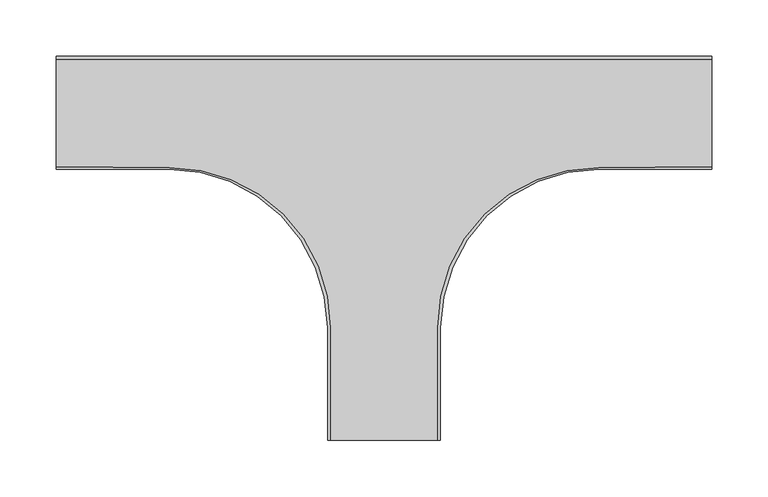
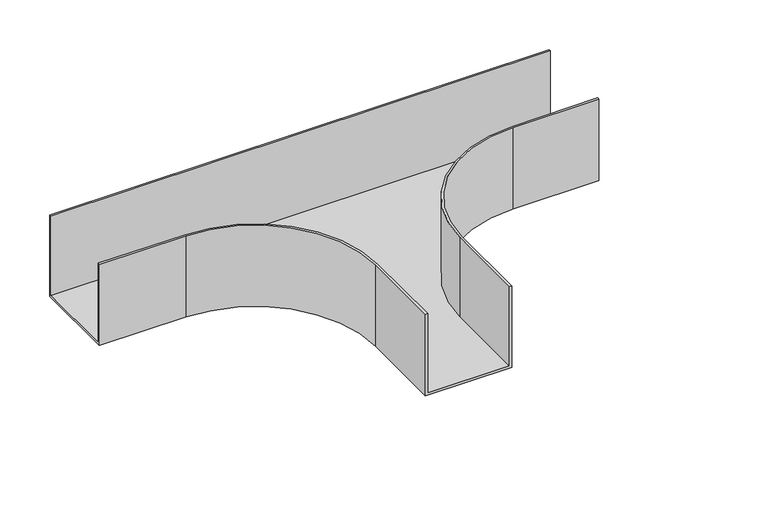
"""IFC4 building model written with IfcOpenShell, lengths in millimetres: cable carrier fitting geometry, BAKS_Tee_TKZ : TKZPH100."""

from ifc_helpers import new_model, si_unit, frame, origin, place, context, project, spatial, polyline, circle_curve, source, transform, mapped, element, save
from ifc_brep_helpers import plane_surface, cylinder_surface, revolved_surface, advanced_brep


def cable_carrier_fitting_e87cdf85(model_context):
    return source(origin(), model_context, "Body", "AdvancedBrep", [
        advanced_brep(
        [(-50.0, -190.0, 50.0), (-50.0, -290.0, 50.0), (-47.46, -290.0, 50.0), (-47.46, -190.0, 50.0), (-190.0, -48.503822, 50.0), (-290.0, -47.46, 50.0), (-290.0, -50.0, 50.0), (-190.0, -50.0, 50.0), (50.0, -190.0, 50.0), (190.0, -50.0, 50.0), (290.0, -50.0, 50.0), (290.0, -47.46, 50.0), (190.0, -48.503822, 50.0), (47.46, -190.0, 50.0), (47.46, -290.0, 50.0), (50.0, -290.0, 50.0), (290.0, 50.0, 50.0), (-290.0, 50.0, 50.0), (-290.0, 47.46, 50.0), (290.0, 47.46, 50.0), (-50.0, -190.0, -50.0), (-190.0, -50.0, -50.0), (-290.0, -50.0, -50.0), (-290.0, 50.0, -50.0), (290.0, 50.0, -50.0), (290.0, -50.0, -50.0), (190.0, -50.0, -50.0), (50.0, -190.0, -50.0), (50.0, -290.0, -50.0), (-50.0, -290.0, -50.0), (-50.0, -190.0, -47.46), (47.46, -290.0, -47.46), (-47.46, -290.0, -47.46), (-47.46, -190.0, -47.46), (-190.0, -48.503822, -47.46), (-290.0, -47.46, -47.46), (-290.0, 47.46, -47.46), (-190.0, -50.0, -47.46), (50.0, -190.0, -47.46), (190.0, -50.0, -47.46), (290.0, 47.46, -47.46), (290.0, -47.46, -47.46), (190.0, -48.503822, -47.46), (47.46, -190.0, -47.46)],
        [
            (0, 1),
            (1, 2),
            (2, 3),
            (3, 4, circle_curve(frame((-188.96, -190.0, 50.0), z_axis=(0.0, 0.0, 1.0), x_axis=(1.0, 0.0, 0.0)), 141.5)),
            (4, 5),
            (5, 6),
            (6, 7),
            (7, 0, circle_curve(frame((-190.0, -190.0, 50.0), z_axis=(0.0, 0.0, -1.0), x_axis=(1.0, 0.0, 0.0)), 140.0)),
            (8, 9, circle_curve(frame((190.0, -190.0, 50.0), z_axis=(0.0, 0.0, -1.0), x_axis=(1.0, 0.0, 0.0)), 140.0)),
            (9, 10),
            (10, 11),
            (11, 12),
            (12, 13, circle_curve(frame((188.96, -190.0, 50.0), z_axis=(0.0, 0.0, 1.0), x_axis=(1.0, 0.0, 0.0)), 141.5)),
            (13, 14),
            (14, 15),
            (15, 8),
            (16, 17),
            (17, 18),
            (18, 19),
            (19, 16),
            (20, 21, circle_curve(frame((-190.0, -190.0, -50.0), z_axis=(0.0, 0.0, 1.0), x_axis=(1.0, 0.0, 0.0)), 140.0)),
            (21, 22),
            (22, 23),
            (23, 24),
            (24, 25),
            (25, 26),
            (26, 27, circle_curve(frame((190.0, -190.0, -50.0), z_axis=(0.0, 0.0, 1.0), x_axis=(1.0, 0.0, 0.0)), 140.0)),
            (27, 28),
            (28, 29),
            (29, 20),
            (29, 1),
            (0, 30),
            (30, 20),
            (28, 15),
            (14, 31),
            (31, 32),
            (32, 2),
            (32, 33),
            (33, 3),
            (33, 34, circle_curve(frame((-188.96, -190.0, -47.46), z_axis=(0.0, 0.0, 1.0), x_axis=(1.0, 0.0, 0.0)), 141.5)),
            (34, 4),
            (34, 35),
            (35, 5),
            (35, 36),
            (36, 18),
            (17, 23),
            (22, 6),
            (21, 37),
            (37, 7),
            (8, 38),
            (38, 27),
            (26, 39),
            (39, 9),
            (25, 10),
            (24, 16),
            (19, 40),
            (40, 41),
            (41, 11),
            (41, 42),
            (42, 12),
            (42, 43, circle_curve(frame((188.96, -190.0, -47.46), z_axis=(0.0, 0.0, 1.0), x_axis=(1.0, 0.0, 0.0)), 141.5)),
            (43, 13),
            (43, 31),
            (36, 40),
        ],
        [
            plane_surface(frame((-50.0, -190.0, 50.0), z_axis=(0.0, 0.0, 1.0), x_axis=(0.0, -1.0, 0.0))),
            plane_surface(frame((-50.0, -190.0, -50.0), z_axis=(0.0, 0.0, -1.0), x_axis=(0.0, 1.0, 0.0))),
            plane_surface(frame((-50.0, -190.0, 50.0), z_axis=(-1.0, 0.0, 0.0), x_axis=(0.0, 0.0, -1.0))),
            plane_surface(frame((-50.0, -290.0, 50.0), z_axis=(0.0, -1.0, 0.0), x_axis=(0.0, 0.0, -1.0))),
            plane_surface(frame((-47.46, -290.0, 50.0), z_axis=(1.0, 0.0, 0.0), x_axis=(0.0, 0.0, -1.0))),
            cylinder_surface(frame((-188.96, -190.0, -50.0), z_axis=(0.0, 0.0, 1.0), x_axis=(1.0, 0.0, 0.0)), 141.5),
            plane_surface(frame((-190.0, -48.503822, 50.0), z_axis=(0.010437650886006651, 0.9999455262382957, 0.0), x_axis=(0.0, 0.0, -1.0))),
            plane_surface(frame((-290.0, -47.46, 50.0), z_axis=(-1.0, 0.0, 0.0), x_axis=(0.0, 0.0, -1.0))),
            plane_surface(frame((-290.0, -50.0, 50.0), z_axis=(0.0, -1.0, 0.0), x_axis=(0.0, 0.0, -1.0))),
            revolved_surface(polyline([(-50.0, -190.0, -50.0), (-50.0, -190.0, 50.0)]), (-190.0, -190.0, -50.0), (0.0, 0.0, -1.0)),
            revolved_surface(polyline([(330.0, -190.0, -50.0), (330.0, -190.0, 50.0)]), (190.0, -190.0, 0.0), (0.0, 0.0, -1.0)),
            plane_surface(frame((190.0, -50.0, 50.0), z_axis=(0.0, -1.0, 0.0), x_axis=(0.0, 0.0, -1.0))),
            plane_surface(frame((290.0, -50.0, 50.0), z_axis=(1.0, 0.0, 0.0), x_axis=(0.0, 0.0, -1.0))),
            plane_surface(frame((290.0, -47.46, 50.0), z_axis=(-0.010437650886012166, 0.9999455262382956, 0.0), x_axis=(0.0, 0.0, -1.0))),
            cylinder_surface(frame((188.96, -190.0, 0.0), z_axis=(0.0, 0.0, 1.0), x_axis=(1.0, 0.0, 0.0)), 141.5),
            plane_surface(frame((47.46, -190.0, 50.0), z_axis=(-1.0, 0.0, 0.0), x_axis=(0.0, 0.0, -1.0))),
            plane_surface(frame((50.0, -290.0, 50.0), z_axis=(1.0, 0.0, 0.0), x_axis=(0.0, 0.0, -1.0))),
            plane_surface(frame((290.0, 50.0, 50.0), z_axis=(0.0, 1.0, 0.0), x_axis=(0.0, 0.0, -1.0))),
            plane_surface(frame((-290.0, 47.46, 50.0), z_axis=(0.0, -1.0, 0.0), x_axis=(0.0, 0.0, -1.0))),
            plane_surface(frame((-50.0, -190.0, -47.46), z_axis=(0.0, 0.0, 1.0), x_axis=(0.0, -1.0, 0.0))),
        ],
        [
            (0, [[1, 2, 3, 4, 5, 6, 7, 8]]),
            (0, [[9, 10, 11, 12, 13, 14, 15, 16]]),
            (0, [[17, 18, 19, 20]]),
            (1, [[21, 22, 23, 24, 25, 26, 27, 28, 29, 30]]),
            (2, [[31, -1, 32, 33, -30]]),
            (3, [[-2, -31, -29, 34, -15, 35, 36, 37]]),
            (4, [[-3, -37, 38, 39]]),
            (5, [[-4, -39, 40, 41]]),
            (6, [[-5, -41, 42, 43]]),
            (7, [[-6, -43, 44, 45, -18, 46, -23, 47]]),
            (8, [[-7, -47, -22, 48, 49]]),
            (9, [[-8, -49, -48, -21, -33, -32]]),
            (10, [[-9, 50, 51, -27, 52, 53]]),
            (11, [[54, -10, -53, -52, -26]]),
            (12, [[-11, -54, -25, 55, -20, 56, 57, 58]]),
            (13, [[-12, -58, 59, 60]]),
            (14, [[-13, -60, 61, 62]]),
            (15, [[-14, -62, 63, -35]]),
            (16, [[-16, -34, -28, -51, -50]]),
            (17, [[-46, -17, -55, -24]]),
            (18, [[-19, -45, 64, -56]]),
            (19, [[-36, -63, -61, -59, -57, -64, -44, -42, -40, -38]]),
        ],
    ),
    ])


if __name__ == "__main__":
    model = new_model("IFC4")
    model_context = context("Model", 3, world=origin())
    ifc_project = project(units=[si_unit("LENGTHUNIT", "METRE", prefix="MILLI")], contexts=[model_context])
    site = spatial("IfcSite", under=ifc_project)
    building = spatial("IfcBuilding", under=site)
    placement = place(None, origin())
    cable_carrier_fitting_shape = cable_carrier_fitting_e87cdf85(model_context)
    element("IfcCableCarrierFitting", 1, ObjectType="BAKS_Tee_TKZ : TKZPH100", at=placement, inside=building, context=model_context, shape_type="MappedRepresentation", body=[
        mapped(cable_carrier_fitting_shape, transform((0.0, 0.0, 0.0), x_axis=(1.0, 0.0, 0.0), y_axis=(0.0, 1.0, 0.0), z_axis=(0.0, 0.0, 1.0))),
    ])
    save(model, "model.ifc")
